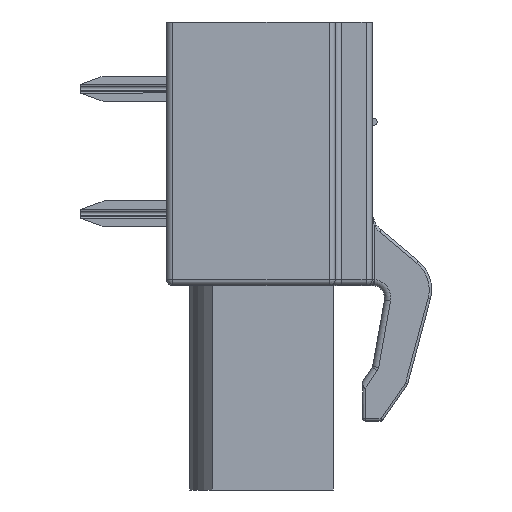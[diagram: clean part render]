
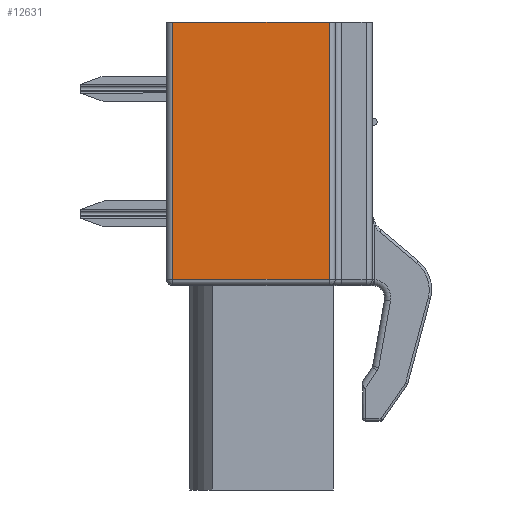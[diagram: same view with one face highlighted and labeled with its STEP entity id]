
A CAD part, left-side view. The second image highlights one B-rep face of the part: STEP entity #12631.
In plain terms, the highlighted planar face has unit normal (-1, 0, 0).
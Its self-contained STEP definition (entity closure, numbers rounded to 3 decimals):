
#810=DIRECTION('',(0.,1.,0.));
#811=VECTOR('',#810,6.35);
#812=CARTESIAN_POINT('',(0.,4.16,0.));
#813=LINE('',#812,#811);
#3714=DIRECTION('',(0.,0.,-1.));
#3715=VECTOR('',#3714,10.45);
#3716=CARTESIAN_POINT('',(0.,10.51,0.));
#3717=LINE('',#3716,#3715);
#3718=DIRECTION('',(0.,-1.,0.));
#3719=VECTOR('',#3718,6.35);
#3720=CARTESIAN_POINT('',(0.,10.51,-10.45));
#3721=LINE('',#3720,#3719);
#3741=DIRECTION('',(0.,0.,1.));
#3742=VECTOR('',#3741,10.45);
#3743=CARTESIAN_POINT('',(0.,4.16,-10.45));
#3744=LINE('',#3743,#3742);
#6433=CARTESIAN_POINT('',(0.,4.16,0.));
#6434=VERTEX_POINT('',#6433);
#6435=CARTESIAN_POINT('',(0.,10.51,0.));
#6436=VERTEX_POINT('',#6435);
#6808=CARTESIAN_POINT('',(0.,10.51,-10.45));
#6809=VERTEX_POINT('',#6808);
#6810=CARTESIAN_POINT('',(0.,4.16,-10.45));
#6811=VERTEX_POINT('',#6810);
#12618=CARTESIAN_POINT('',(0.,10.76,-10.7));
#12619=DIRECTION('',(-1.,0.,0.));
#12620=DIRECTION('',(0.,0.,1.));
#12621=AXIS2_PLACEMENT_3D('',#12618,#12619,#12620);
#12622=PLANE('',#12621);
#12624=ORIENTED_EDGE('',*,*,#12623,.F.);
#12625=ORIENTED_EDGE('',*,*,#12613,.F.);
#12626=ORIENTED_EDGE('',*,*,#8179,.F.);
#12628=ORIENTED_EDGE('',*,*,#12627,.F.);
#12629=EDGE_LOOP('',(#12624,#12625,#12626,#12628));
#12630=FACE_OUTER_BOUND('',#12629,.F.);
#12631=ADVANCED_FACE('',(#12630),#12622,.T.);
#8179=EDGE_CURVE('',#6434,#6436,#813,.T.);
#12613=EDGE_CURVE('',#6436,#6809,#3717,.T.);
#12623=EDGE_CURVE('',#6809,#6811,#3721,.T.);
#12627=EDGE_CURVE('',#6811,#6434,#3744,.T.);
